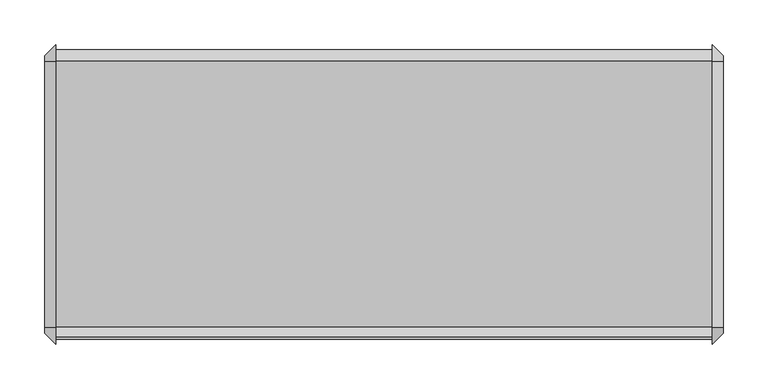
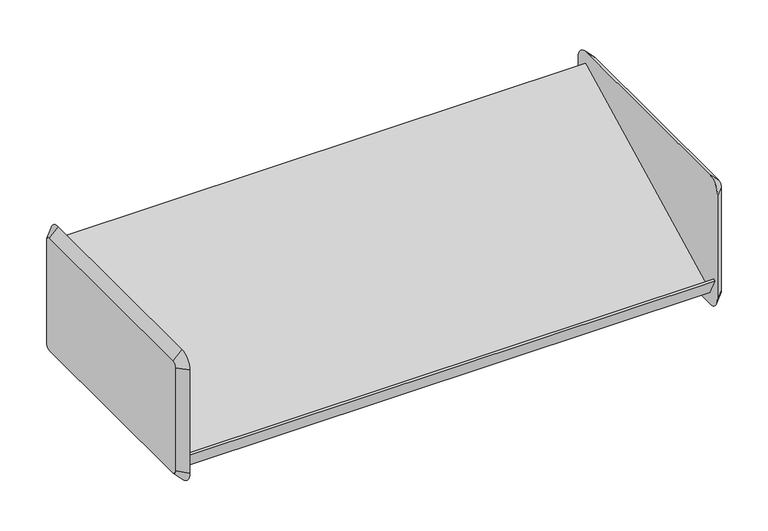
"""IFC4 building model written with IfcOpenShell, lengths in millimetres: furniture geometry."""

from ifc_helpers import new_model, si_unit, frame, origin, place, context, project, spatial, polyline, circle_curve, outline, extrude, source, transform, mapped, element, save
from ifc_brep_helpers import plane_surface, revolved_surface, advanced_brep


def furniture_e3423f84(model_context):
    return source(origin(), model_context, "Body", "SolidModel", [
        advanced_brep(
        [(257.0579955, 161.925, 1511.3), (257.0579955, -136.525, 1511.3), (257.0579955, -142.875, 1504.95), (257.0579955, -142.875, 1352.55), (257.0579955, -136.525, 1346.2), (257.0579955, 161.925, 1346.2), (257.0579955, 168.275, 1352.55), (257.0579955, 168.275, 1504.95), (244.3579955, 161.925, 1524.0), (244.3579955, 180.975, 1504.95), (244.3579955, 180.975, 1352.55), (244.3579955, 161.925, 1333.5), (244.3579955, -136.525, 1333.5), (244.3579955, -155.575, 1352.55), (244.3579955, -155.575, 1504.95), (244.3579955, -136.525, 1524.0)],
        [
            (0, 1),
            (1, 2, circle_curve(frame((257.0579955, -136.525, 1504.95), z_axis=(1.0, 2.0730084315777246e-12, -2.1529444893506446e-12), x_axis=(2.15291077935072e-12, 0.0, 1.0)), 6.35)),
            (2, 3),
            (3, 4, circle_curve(frame((257.0579955, -136.525, 1352.55), z_axis=(1.0, 2.0596857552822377e-12, 2.06767936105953e-12), x_axis=(2.059647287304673e-12, -1.0, 0.0)), 6.35)),
            (4, 5),
            (5, 6, circle_curve(frame((257.0579955, 161.925, 1352.55), z_axis=(1.0, 2.0889956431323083e-12, -2.0889956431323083e-12), x_axis=(-2.0890080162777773e-12, 0.0, -1.0)), 6.35)),
            (6, 7),
            (7, 0, circle_curve(frame((257.0579955, 161.925, 1504.95), z_axis=(1.0, 2.0783375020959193e-12, 2.003730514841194e-12), x_axis=(-2.0783313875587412e-12, 1.0, 0.0)), 6.35)),
            (8, 9, circle_curve(frame((244.3579955, 161.925, 1504.95), z_axis=(-1.0, -2.0783375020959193e-12, -2.003730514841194e-12), x_axis=(-2.0783313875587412e-12, 1.0, 0.0)), 19.05)),
            (9, 10),
            (10, 11, circle_curve(frame((244.3579955, 161.925, 1352.55), z_axis=(-1.0, -2.0889956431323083e-12, 2.0889956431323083e-12), x_axis=(-2.0890080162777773e-12, 0.0, -1.0)), 19.05)),
            (11, 12),
            (12, 13, circle_curve(frame((244.3579955, -136.525, 1352.55), z_axis=(-1.0, -2.0596857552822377e-12, -2.06767936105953e-12), x_axis=(2.059647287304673e-12, -1.0, 0.0)), 19.05)),
            (13, 14),
            (14, 15, circle_curve(frame((244.3579955, -136.525, 1504.95), z_axis=(-1.0, -2.0730084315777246e-12, 2.1529444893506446e-12), x_axis=(2.15291077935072e-12, 0.0, 1.0)), 19.05)),
            (15, 8),
            (15, 1),
            (0, 8),
            (14, 2),
            (13, 3),
            (12, 4),
            (11, 5),
            (10, 6),
            (9, 7),
        ],
        [
            plane_surface(frame((257.0579955, 12.7, 1428.75), z_axis=(1.0, 0.0, 0.0), x_axis=(0.0, -1.0, 0.0))),
            plane_surface(frame((244.3579955, 12.7, 1428.75), z_axis=(-1.0, 0.0, 0.0), x_axis=(0.0, -1.0, 0.0))),
            plane_surface(frame((244.3579955, 12.7, 1524.0), z_axis=(0.7071067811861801, 0.0, 0.707106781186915), x_axis=(0.0, -1.0, 0.0))),
            revolved_surface(polyline([(257.0579955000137, -136.525, 1511.2999999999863), (244.3579955, -136.525, 1524.0)]), (263.4079955, -136.525, 1504.95), (-1.0, -2.0730084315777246e-12, 2.1529444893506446e-12)),
            plane_surface(frame((244.3579955, -155.575, 1428.75), z_axis=(0.7071067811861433, -0.7071067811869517, 0.0), x_axis=(0.0, 0.0, -1.0))),
            revolved_surface(polyline([(257.0579955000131, -142.87499999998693, 1352.55), (244.35799549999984, -155.57500000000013, 1352.55)]), (263.4079955, -136.525, 1352.55), (-1.0, -2.0596857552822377e-12, -2.06767936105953e-12)),
            plane_surface(frame((244.3579955, 12.7, 1333.5), z_axis=(0.7071067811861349, 0.0, -0.7071067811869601), x_axis=(0.0, 1.0, 0.0))),
            revolved_surface(polyline([(257.0579955, 161.925, 1346.2), (244.3579954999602, 161.925, 1333.4999999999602)]), (263.4079955, 161.925, 1352.55), (-1.0, -2.0889956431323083e-12, 2.0889956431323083e-12)),
            plane_surface(frame((244.3579955, 180.975, 1428.75), z_axis=(0.7071067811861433, 0.7071067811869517, 0.0), x_axis=(0.0, 0.0, 1.0))),
            revolved_surface(polyline([(257.0579955, 168.275, 1504.95), (244.3579954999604, 180.97500000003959, 1504.95)]), (263.4079955, 161.925, 1504.95), (-1.0, -2.0783375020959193e-12, -2.003730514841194e-12)),
        ],
        [
            (0, [[1, 2, 3, 4, 5, 6, 7, 8]]),
            (1, [[9, 10, 11, 12, 13, 14, 15, 16]]),
            (2, [[-16, 17, -1, 18]]),
            (3, [[-15, 19, -2, -17]]),
            (4, [[-14, 20, -3, -19]]),
            (5, [[-13, 21, -4, -20]]),
            (6, [[-12, 22, -5, -21]]),
            (7, [[-11, 23, -6, -22]]),
            (8, [[-10, 24, -7, -23]]),
            (9, [[-9, -18, -8, -24]]),
        ],
    ),
        advanced_brep(
        [(-504.9420045, -136.525, 1511.3), (-504.9420045, 161.925, 1511.3), (-504.9420045, 168.275, 1504.95), (-504.9420045, 168.275, 1352.55), (-504.9420045, 161.925, 1346.2), (-504.9420045, -136.525, 1346.2), (-504.9420045, -142.875, 1352.55), (-504.9420045, -142.875, 1504.95), (-492.2420045, -136.525, 1524.0), (-492.2420045, -155.575, 1504.95), (-492.2420045, -155.575, 1352.55), (-492.2420045, -136.525, 1333.5), (-492.2420045, 161.925, 1333.5), (-492.2420045, 180.975, 1352.55), (-492.2420045, 180.975, 1504.95), (-492.2420045, 161.925, 1524.0)],
        [
            (0, 1),
            (1, 2, circle_curve(frame((-504.9420045, 161.925, 1504.95), z_axis=(-1.0, 0.0, 0.0), x_axis=(0.0, 0.0, 1.0)), 6.35)),
            (2, 3),
            (3, 4, circle_curve(frame((-504.9420045, 161.925, 1352.55), z_axis=(-1.0, 0.0, 0.0), x_axis=(0.0, 1.0, 0.0)), 6.35)),
            (4, 5),
            (5, 6, circle_curve(frame((-504.9420045, -136.525, 1352.55), z_axis=(-1.0, 0.0, 0.0), x_axis=(0.0, 0.0, -1.0)), 6.35)),
            (6, 7),
            (7, 0, circle_curve(frame((-504.9420045, -136.525, 1504.95), z_axis=(-1.0, 0.0, 0.0), x_axis=(0.0, -1.0, 0.0)), 6.35)),
            (8, 9, circle_curve(frame((-492.2420045, -136.525, 1504.95), z_axis=(1.0, 0.0, 0.0), x_axis=(0.0, -1.0, 0.0)), 19.05)),
            (9, 10),
            (10, 11, circle_curve(frame((-492.2420045, -136.525, 1352.55), z_axis=(1.0, 0.0, 0.0), x_axis=(0.0, 0.0, -1.0)), 19.05)),
            (11, 12),
            (12, 13, circle_curve(frame((-492.2420045, 161.925, 1352.55), z_axis=(1.0, 0.0, 0.0), x_axis=(0.0, 1.0, 0.0)), 19.05)),
            (13, 14),
            (14, 15, circle_curve(frame((-492.2420045, 161.925, 1504.95), z_axis=(1.0, 0.0, 0.0), x_axis=(0.0, 0.0, 1.0)), 19.05)),
            (15, 8),
            (15, 1),
            (0, 8),
            (14, 2),
            (13, 3),
            (12, 4),
            (11, 5),
            (10, 6),
            (9, 7),
        ],
        [
            plane_surface(frame((-504.9420045, 12.7, 1428.75), z_axis=(-1.0, 0.0, 0.0), x_axis=(0.0, -1.0, 0.0))),
            plane_surface(frame((-492.2420045, 12.7, 1428.75), z_axis=(1.0, 0.0, 0.0), x_axis=(0.0, -1.0, 0.0))),
            plane_surface(frame((-492.2420045, 12.7, 1524.0), z_axis=(-0.7071067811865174, 0.0, 0.7071067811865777), x_axis=(0.0, 1.0, 0.0))),
            revolved_surface(polyline([(-504.9420045, 161.925, 1511.3), (-492.2420045, 161.925, 1524.0)]), (-511.2920045, 161.925, 1504.95), (1.0, 0.0, 0.0)),
            plane_surface(frame((-492.2420045, 180.975, 1428.75), z_axis=(-0.7071067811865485, 0.7071067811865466, 0.0), x_axis=(0.0, 0.0, -1.0))),
            revolved_surface(polyline([(-504.9420045, 168.27500000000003, 1352.55), (-492.2420045, 180.975, 1352.55)]), (-511.2920045, 161.925, 1352.55), (1.0, 0.0, 0.0)),
            plane_surface(frame((-492.2420045, 12.7, 1333.5), z_axis=(-0.7071067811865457, 0.0, -0.7071067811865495), x_axis=(0.0, -1.0, 0.0))),
            revolved_surface(polyline([(-504.9420045, -136.525, 1346.2), (-492.2420045, -136.525, 1333.5)]), (-511.2920045, -136.525, 1352.55), (1.0, 0.0, 0.0)),
            plane_surface(frame((-492.2420045, -155.575, 1428.75), z_axis=(-0.7071067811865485, -0.7071067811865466, 0.0), x_axis=(0.0, 0.0, 1.0))),
            revolved_surface(polyline([(-504.9420045, -142.87500000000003, 1504.95), (-492.2420045, -155.575, 1504.95)]), (-511.2920045, -136.525, 1504.95), (1.0, 0.0, 0.0)),
        ],
        [
            (0, [[1, 2, 3, 4, 5, 6, 7, 8]]),
            (1, [[9, 10, 11, 12, 13, 14, 15, 16]]),
            (2, [[-16, 17, -1, 18]]),
            (3, [[-15, 19, -2, -17]]),
            (4, [[-14, 20, -3, -19]]),
            (5, [[-13, 21, -4, -20]]),
            (6, [[-12, 22, -5, -21]]),
            (7, [[-11, 23, -6, -22]]),
            (8, [[-10, 24, -7, -23]]),
            (9, [[-9, -18, -8, -24]]),
        ],
    ),
        extrude(outline(polyline([(-137.2094993, 1350.4179666), (-149.845093, 1374.8467844), (-147.0173828, 1376.2907216), (-135.8404765, 1354.6820334), (162.5893131, 1507.0717194), (175.2453599, 1483.4470972), (172.4171401, 1482.0028998), (161.2606869, 1502.8282806), (-137.2094993, 1350.4179666)])), frame((-492.2420045, 0.0, 0.0), z_axis=(1.0, 0.0, 0.0), x_axis=(0.0, 1.0, 0.0)), (0.0, 0.0, 1.0), 736.6),
    ])


if __name__ == "__main__":
    model = new_model("IFC4")
    model_context = context("Model", 3, world=origin())
    ifc_project = project(units=[si_unit("LENGTHUNIT", "METRE", prefix="MILLI")], contexts=[model_context])
    site = spatial("IfcSite", under=ifc_project)
    building = spatial("IfcBuilding", under=site)
    placement = place(None, origin())
    furniture_shape = furniture_e3423f84(model_context)
    element("IfcFurniture", 1, ObjectType="HermanMiller_ActionOffice_A3220_B-StyleStorageDisplay : Display 13\"D x 30\"W", at=placement, inside=building, context=model_context, shape_type="MappedRepresentation", body=[
        mapped(furniture_shape, transform((0.0, 0.0, 0.0), x_axis=(1.0, 0.0, 0.0), y_axis=(0.0, 1.0, 0.0), z_axis=(0.0, 0.0, 1.0))),
    ])
    save(model, "model.ifc")
